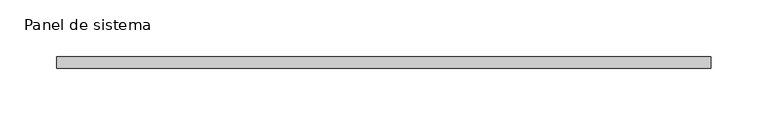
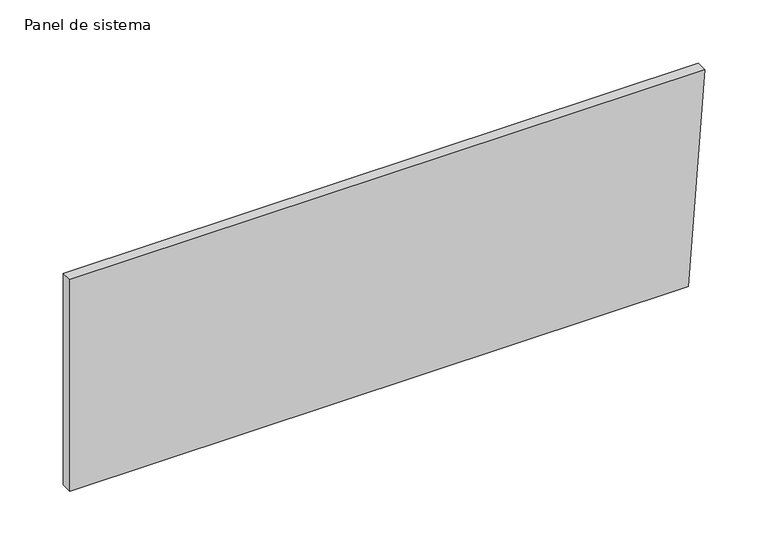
"""IFC4 building model written with IfcOpenShell, lengths in millimetres: plate geometry, Panel de sistema : Acristalado Superor."""

from ifc_helpers import new_model, si_unit, frame, origin, place, context, project, spatial, polyline, outline, extrude, source, transform, mapped, element, save


def panel_de_sistema_14e4dad8(model_context):
    return source(origin(), model_context, "Body", "SweptSolid", [
        extrude(outline(polyline([(0.0, -288.6850195), (0.0, 273.8127096), (203.5244088, 288.6850195), (203.5244088, -288.6850195), (0.0, -288.6850195)])), frame((0.0, -25.0, 0.0), z_axis=(0.0, 1.0, 0.0), x_axis=(0.0, 0.0, 1.0)), (0.0, 0.0, 1.0), 10.0),
    ])


if __name__ == "__main__":
    model = new_model("IFC4")
    model_context = context("Model", 3, world=origin())
    ifc_project = project(units=[si_unit("LENGTHUNIT", "METRE", prefix="MILLI")], contexts=[model_context])
    site = spatial("IfcSite", under=ifc_project)
    building = spatial("IfcBuilding", under=site)
    placement = place(None, origin())
    panel_de_sistema_shape = panel_de_sistema_14e4dad8(model_context)
    element("IfcPlate", 1, ObjectType="Panel de sistema : Acristalado Superor", at=placement, inside=building, context=model_context, shape_type="MappedRepresentation", body=[
        mapped(panel_de_sistema_shape, transform((0.0, 0.0, 0.0), x_axis=(1.0, 0.0, 0.0), y_axis=(0.0, 1.0, 0.0), z_axis=(0.0, 0.0, 1.0))),
    ])
    save(model, "model.ifc")
